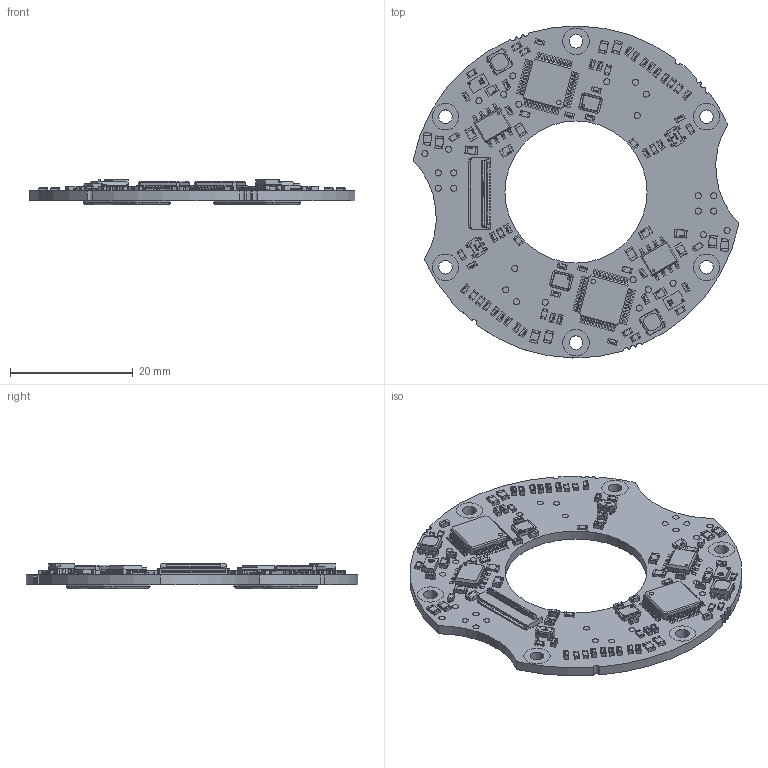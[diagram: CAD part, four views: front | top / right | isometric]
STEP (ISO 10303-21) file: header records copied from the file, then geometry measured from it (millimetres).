
FILE_DESCRIPTION (( 'STEP AP203' ), '1' );
FILE_NAME ('AksIM_MB039.STEP', '2020-02-10T12:54:18', ( '' ), ( '' ), 'SwSTEP 2.0', 'SolidWorks 2016', '' );
FILE_SCHEMA (( 'CONFIG_CONTROL_DESIGN' ));
Length unit declared in the file: millimetre
Products named in the file (1): AksIM_MB039
Bounding box: 53.01 x 53.99 x 4.12 mm (x, y, z)
Surface area: 7089.9 mm2 (no closed solid volume)
Topology: 0 solids, 465 shells, 3443 faces, 17004 edges, 13757 vertices
Faces by surface type: plane 2491, cylinder 883, bspline 69
Full cylindrical faces by diameter (mm): 0.379 x2, 0.432 x2, 0.75 x2, 1 x13, 2.2 x12, 4.3 x6, 23.1 x1
Entity records: 214111 total; most frequent: CARTESIAN_POINT 91566, ORIENTED_EDGE 22335, DIRECTION 21199, EDGE_CURVE 16948, VERTEX_POINT 13757, LINE 10719, VECTOR 10719, AXIS2_PLACEMENT_3D 5240
